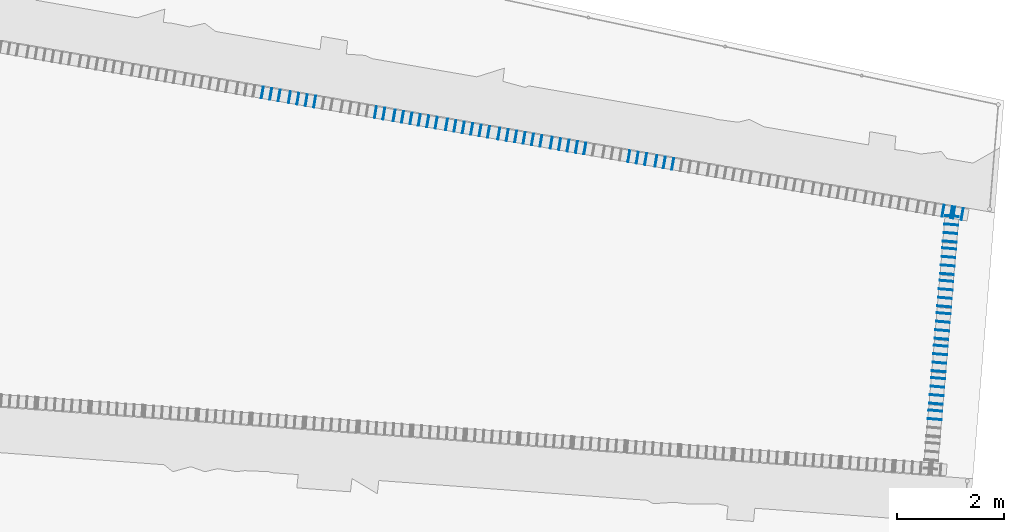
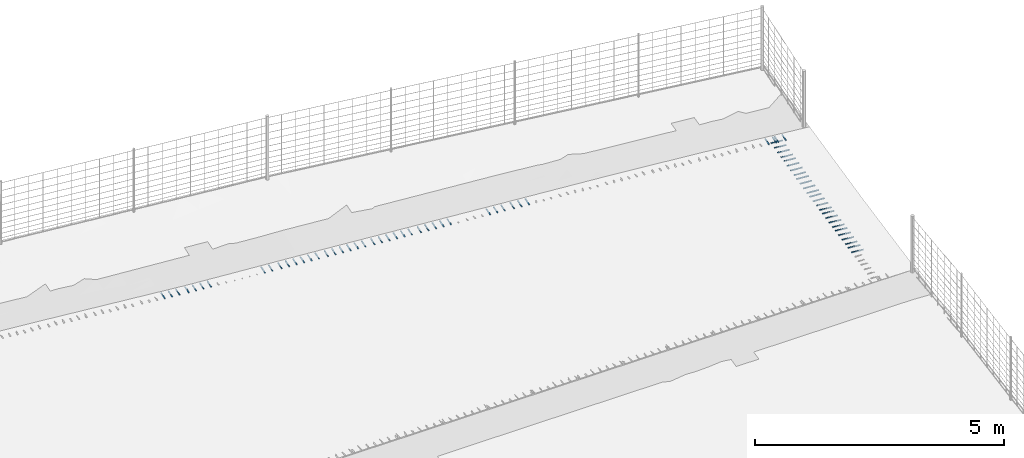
# Not in any storey, part 21 of 72: 68 members.
"""IFC4 model written with IfcOpenShell, lengths in metres."""

import ifcopenshell
import ifcopenshell.guid

model = None  # the IFC model being written
_history = None  # IfcOwnerHistory: only IFC2X3 demands one
_inside = {}  # id of a spatial element -> (the spatial element, [elements in it])
_under = {}  # id of a project, library or spatial element -> (it, [spatial elements below it])
_declared = {}  # id of a project -> (the project, [libraries it declares])
_typed = {}  # id of a type object -> (the type object, [elements of that type])
_made_of = {}  # id of a material, layer set ... -> (it, [elements and type objects made of it])


def new_model(schema):
    """Start an empty IFC model of exactly this schema.

    Asked for "IFC4X3", IfcOpenShell would pick the latest addendum, in which some entities
    have other attributes; the version numbers below select the first issue.
    IFC2X3 requires an IfcOwnerHistory on every rooted entity: one is made here for all.
    """
    global model, _history
    if schema == "IFC4X3":
        model = ifcopenshell.file(schema_version=(4, 3, 0, 0))
    else:
        model = ifcopenshell.file(schema=schema)
    _inside.clear()
    _under.clear()
    _declared.clear()
    _typed.clear()
    _made_of.clear()
    _history = None
    if model.schema == "IFC2X3":
        org = make("IfcOrganization", Name="unknown")
        user = make(
            "IfcPersonAndOrganization",
            ThePerson=make("IfcPerson", FamilyName="unknown"),
            TheOrganization=org,
        )
        app = make(
            "IfcApplication",
            ApplicationDeveloper=org,
            Version="unknown",
            ApplicationFullName="unknown",
            ApplicationIdentifier="unknown",
        )
        _history = make(
            "IfcOwnerHistory",
            OwningUser=user,
            OwningApplication=app,
            ChangeAction="ADDED",
            CreationDate=0,
        )
    return model


def make(cls, **values):
    """One entity of the class cls with the attributes given. An attribute that is None is left unset."""
    return model.create_entity(
        cls, **{name: value for name, value in values.items() if value is not None}
    )


def rooted(cls, **values):
    """An entity with a GlobalId (a new one), such as an element, a storey or a relation."""
    return make(cls, GlobalId=ifcopenshell.guid.new(), OwnerHistory=_history, **values)


def si_unit(unit_type, name, prefix=None):
    """IfcSIUnit, for example si_unit("LENGTHUNIT", "METRE", prefix="MILLI")."""
    return make("IfcSIUnit", UnitType=unit_type, Prefix=prefix, Name=name)


def assignment(units):
    """IfcUnitAssignment: the units of a project."""
    return None if units is None else make("IfcUnitAssignment", Units=units)


def point(xyz):
    """IfcCartesianPoint."""
    return None if xyz is None else make("IfcCartesianPoint", Coordinates=xyz)


def direction(xyz):
    """IfcDirection."""
    return None if xyz is None else make("IfcDirection", DirectionRatios=xyz)


def frame(location, z_axis=None, x_axis=None):
    """IfcAxis2Placement3D, a coordinate frame: its origin and axes. An axis left out is left unset."""
    return make(
        "IfcAxis2Placement3D",
        Location=point(location),
        Axis=direction(z_axis),
        RefDirection=direction(x_axis),
    )


def origin_with_axes():
    """The frame at (0, 0, 0) with the z axis (0, 0, 1) and the x axis (1, 0, 0) written out."""
    return frame((0.0, 0.0, 0.0), z_axis=(0.0, 0.0, 1.0), x_axis=(1.0, 0.0, 0.0))


def place(relative_to, where):
    """IfcLocalPlacement: puts the frame where relative to a parent placement (None: the world)."""
    return make(
        "IfcLocalPlacement", PlacementRelTo=relative_to, RelativePlacement=where
    )


def context(
    kind, dimensions, precision=None, world=None, true_north=None, identifier=None
):
    """IfcGeometricRepresentationContext, for example the 3D "Model" context."""
    return make(
        "IfcGeometricRepresentationContext",
        ContextIdentifier=identifier,
        ContextType=kind,
        CoordinateSpaceDimension=dimensions,
        Precision=precision,
        WorldCoordinateSystem=world,
        TrueNorth=true_north,
    )


def subcontext(parent, identifier, kind, view, scale=None):
    """IfcGeometricRepresentationSubContext, for example "Body" below "Model"."""
    return make(
        "IfcGeometricRepresentationSubContext",
        ContextIdentifier=identifier,
        ContextType=kind,
        ParentContext=parent,
        TargetScale=scale,
        TargetView=view,
    )


def project(units=None, contexts=None):
    """IfcProject with its units and contexts."""
    return rooted(
        "IfcProject",
        Name="project",
        RepresentationContexts=contexts,
        UnitsInContext=assignment(units),
    )


def spatial(cls, under=None, at=None, **own):
    """A site, building, storey or space (cls), placed at a placement, below another one or the project."""
    s = rooted(cls, ObjectPlacement=at, **own)
    if under is not None:
        _under.setdefault(under.id(), (under, []))[1].append(s)
    return s


def profile(cls, at=None, kind="AREA", **sizes):
    """A parametric profile (cls). Its sizes go by their IFC names, for example OverallWidth=200.0."""
    return make(cls, ProfileType=kind, Position=at, **sizes)


def rectangle(**sizes):
    """IfcRectangleProfileDef."""
    return profile("IfcRectangleProfileDef", **sizes)


def extrude(swept, where, along, depth):
    """IfcExtrudedAreaSolid: the profile swept, set in the frame where, extruded along a direction by depth."""
    return make(
        "IfcExtrudedAreaSolid",
        SweptArea=swept,
        Position=where,
        ExtrudedDirection=direction(along),
        Depth=depth,
    )


def shape(context_of_items, identifier, shape_type, items):
    """IfcShapeRepresentation: the items that make up one representation, for example the "Body"."""
    return make(
        "IfcShapeRepresentation",
        ContextOfItems=context_of_items,
        RepresentationIdentifier=identifier,
        RepresentationType=shape_type,
        Items=items,
    )


def material(Name=None, Category=None):
    """IfcMaterial."""
    return make("IfcMaterial", Name=Name, Category=Category)


def material_profile(
    of_material, cross_section, Name=None, Category=None, Priority=None
):
    """IfcMaterialProfile: a cross section and its material."""
    return make(
        "IfcMaterialProfile",
        Name=Name,
        Material=of_material,
        Profile=cross_section,
        Priority=Priority,
        Category=Category,
    )


def profile_set(profiles, Name=None, composite=None):
    """IfcMaterialProfileSet."""
    return make(
        "IfcMaterialProfileSet",
        Name=Name,
        MaterialProfiles=profiles,
        CompositeProfile=composite,
    )


def profile_usage(for_profile_set, cardinal=None, extent=None):
    """IfcMaterialProfileSetUsage: how a profile set lies along its element."""
    return make(
        "IfcMaterialProfileSetUsage",
        ForProfileSet=for_profile_set,
        CardinalPoint=cardinal,
        ReferenceExtent=extent,
    )


def made_of(thing, what):
    """Note that an element or type object is made of a material, layer set ...; save() writes the relation."""
    if what is not None:
        _made_of.setdefault(what.id(), (what, []))[1].append(thing)
    return thing


def type_object(cls, material=None, **own):
    """A type object (cls), such as IfcWallType, which elements share."""
    return made_of(rooted(cls, **own), material)


def element(
    cls,
    number,
    at=None,
    inside=None,
    cuts=None,
    type_object=None,
    material=None,
    context=None,
    identifier="Body",
    shape_type=None,
    held_by="IfcProductDefinitionShape",
    body=None,
    shapes=None,
    **own,
):
    """One element of the class cls, such as IfcWall. Its Tag is "e" and its number.

    at: its placement. inside: the storey or other place that contains it. cuts: it is an
    opening in that element (IfcRelVoidsElement). A single representation is given by context,
    identifier, shape_type and body (its items); several are given by shapes. held_by: the class
    of the entity that holds the representations. save() writes the other relations.
    """
    e = rooted(cls, Tag="e%d" % number, ObjectPlacement=at, **own)
    if body is not None:
        shapes = [shape(context, identifier, shape_type, body)]
    if shapes is not None:
        e.Representation = make(held_by, Representations=shapes)
    if inside is not None:
        _inside.setdefault(inside.id(), (inside, []))[1].append(e)
    if cuts is not None:
        rooted(
            "IfcRelVoidsElement", RelatingBuildingElement=cuts, RelatedOpeningElement=e
        )
    if type_object is not None:
        _typed.setdefault(type_object.id(), (type_object, []))[1].append(e)
    return made_of(e, material)


def aggregate(whole, parts):
    """IfcRelAggregates: a whole, such as a stair, and the parts it consists of."""
    return rooted("IfcRelAggregates", RelatingObject=whole, RelatedObjects=parts)


def save(model, path):
    """Write the relations noted so far, then the file.

    IfcRelAggregates (storeys below a building ...), IfcRelContainedInSpatialStructure (elements
    in a storey), IfcRelDefinesByType, IfcRelAssociatesMaterial and IfcRelDeclares: one each for
    every whole, place, type object, material and project.
    """
    for whole, parts in _under.values():
        aggregate(whole, parts)
    for where, things in _inside.values():
        rooted(
            "IfcRelContainedInSpatialStructure",
            RelatedElements=things,
            RelatingStructure=where,
        )
    for kind, things in _typed.values():
        rooted("IfcRelDefinesByType", RelatedObjects=things, RelatingType=kind)
    for what, things in _made_of.values():
        rooted("IfcRelAssociatesMaterial", RelatedObjects=things, RelatingMaterial=what)
    for by, libraries in _declared.values():
        rooted("IfcRelDeclares", RelatingContext=by, RelatedDefinitions=libraries)
    model.write(path)


model = new_model("IFC4")

# Units and contexts
model_context = context("Model", 3, precision=1e-05, world=origin_with_axes(), true_north=direction((0.0, 1.0)))
body_context = subcontext(model_context, "Body", "Model", "MODEL_VIEW")
ifc_project = project(units=[si_unit("AREAUNIT", "SQUARE_METRE"), si_unit("VOLUMEUNIT", "CUBIC_METRE"), si_unit("LENGTHUNIT", "METRE")], contexts=[model_context])

# Site
site_placement = place(None, origin_with_axes())
site = spatial("IfcSite", under=ifc_project, at=site_placement, Name="Lares · Rua das Mercês · artigo 4771")

# Members
ifc_material = material(Name="Aço galvanizado / Stahl verzinkt", Category="steel")
ifc_material_profile = material_profile(ifc_material, rectangle(XDim=0.018, YDim=0.018))
ifc_profile_set = profile_set([ifc_material_profile], Name="R0.018")
ifc_profile_usage_1 = profile_usage(ifc_profile_set)
member_type = type_object("IfcMemberType", Name="R0.018 / galvanized", PredefinedType="NOTDEFINED", material=ifc_profile_set)
member_1_placement = place(site_placement, frame((69.9526752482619, 7.63503652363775, 15.7576259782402), z_axis=(0.171139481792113, 0.985246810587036, 0.0), x_axis=(0.985246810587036, -0.171139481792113, 0.0)))
element("IfcMember", 1, at=member_1_placement, inside=site, type_object=member_type, material=ifc_profile_usage_1, Name="Acesso · dreno lateral raso · grelha", context=body_context, shape_type="SweptSolid", body=[
    extrude(rectangle(XDim=0.018, YDim=0.018), origin_with_axes(), (0.0, 0.0, 1.0), 0.220000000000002),
])
ifc_profile_usage_2 = profile_usage(ifc_profile_set)
member_2_placement = place(site_placement, frame((70.1103147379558, 7.60765420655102, 15.7638263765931), z_axis=(0.171139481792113, 0.985246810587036, 0.0), x_axis=(0.985246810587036, -0.171139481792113, 0.0)))
element("IfcMember", 2, at=member_2_placement, inside=site, type_object=member_type, material=ifc_profile_usage_2, Name="Acesso · dreno lateral raso · grelha", context=body_context, shape_type="SweptSolid", body=[
    extrude(rectangle(XDim=0.018, YDim=0.018), origin_with_axes(), (0.0, 0.0, 1.0), 0.220000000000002),
])
ifc_profile_usage_3 = profile_usage(ifc_profile_set)
member_3_placement = place(site_placement, frame((70.2679542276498, 7.5802718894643, 15.770026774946), z_axis=(0.171139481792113, 0.985246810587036, 0.0), x_axis=(0.985246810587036, -0.171139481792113, 0.0)))
element("IfcMember", 3, at=member_3_placement, inside=site, type_object=member_type, material=ifc_profile_usage_3, Name="Acesso · dreno lateral raso · grelha", context=body_context, shape_type="SweptSolid", body=[
    extrude(rectangle(XDim=0.018, YDim=0.018), origin_with_axes(), (0.0, 0.0, 1.0), 0.220000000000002),
])
ifc_profile_usage_4 = profile_usage(ifc_profile_set)
member_4_placement = place(site_placement, frame((70.4607309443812, 7.54678618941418, 15.7780083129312), z_axis=(0.171138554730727, 0.985246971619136, 0.0), x_axis=(0.985246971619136, -0.171138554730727, 0.0)))
element("IfcMember", 4, at=member_4_placement, inside=site, type_object=member_type, material=ifc_profile_usage_4, Name="Acesso · dreno lateral raso · grelha", context=body_context, shape_type="SweptSolid", body=[
    extrude(rectangle(XDim=0.018, YDim=0.018), origin_with_axes(), (0.0, 0.0, 1.0), 0.220000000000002),
])
ifc_profile_usage_5 = profile_usage(ifc_profile_set)
member_5_placement = place(site_placement, frame((70.6183704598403, 7.51940402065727, 15.7863372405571), z_axis=(0.171138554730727, 0.985246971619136, 0.0), x_axis=(0.985246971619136, -0.171138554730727, 0.0)))
element("IfcMember", 5, at=member_5_placement, inside=site, type_object=member_type, material=ifc_profile_usage_5, Name="Acesso · dreno lateral raso · grelha", context=body_context, shape_type="SweptSolid", body=[
    extrude(rectangle(XDim=0.018, YDim=0.018), origin_with_axes(), (0.0, 0.0, 1.0), 0.220000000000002),
])
ifc_profile_usage_6 = profile_usage(ifc_profile_set)
member_6_placement = place(site_placement, frame((70.7760099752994, 7.49202185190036, 15.7946661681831), z_axis=(0.171138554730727, 0.985246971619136, 0.0), x_axis=(0.985246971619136, -0.171138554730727, 0.0)))
element("IfcMember", 6, at=member_6_placement, inside=site, type_object=member_type, material=ifc_profile_usage_6, Name="Acesso · dreno lateral raso · grelha", context=body_context, shape_type="SweptSolid", body=[
    extrude(rectangle(XDim=0.018, YDim=0.018), origin_with_axes(), (0.0, 0.0, 1.0), 0.220000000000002),
])
ifc_profile_usage_7 = profile_usage(ifc_profile_set)
member_7_placement = place(site_placement, frame((70.9336494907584, 7.46463968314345, 15.802995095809), z_axis=(0.171138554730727, 0.985246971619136, 0.0), x_axis=(0.985246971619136, -0.171138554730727, 0.0)))
element("IfcMember", 7, at=member_7_placement, inside=site, type_object=member_type, material=ifc_profile_usage_7, Name="Acesso · dreno lateral raso · grelha", context=body_context, shape_type="SweptSolid", body=[
    extrude(rectangle(XDim=0.018, YDim=0.018), origin_with_axes(), (0.0, 0.0, 1.0), 0.220000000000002),
])
ifc_profile_usage_8 = profile_usage(ifc_profile_set)
member_8_placement = place(site_placement, frame((72.0722711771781, 7.26686044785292, 15.87007278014), z_axis=(0.171137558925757, 0.985247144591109, 0.0), x_axis=(0.985247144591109, -0.171137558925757, 0.0)))
element("IfcMember", 8, at=member_8_placement, inside=site, type_object=member_type, material=ifc_profile_usage_8, Name="Acesso · dreno lateral raso · grelha", context=body_context, shape_type="SweptSolid", body=[
    extrude(rectangle(XDim=0.018, YDim=0.018), origin_with_axes(), (0.0, 0.0, 1.0), 0.219999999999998),
])
ifc_profile_usage_9 = profile_usage(ifc_profile_set)
member_9_placement = place(site_placement, frame((72.2299107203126, 7.2394784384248, 15.8800538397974), z_axis=(0.171137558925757, 0.985247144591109, 0.0), x_axis=(0.985247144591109, -0.171137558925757, 0.0)))
element("IfcMember", 9, at=member_9_placement, inside=site, type_object=member_type, material=ifc_profile_usage_9, Name="Acesso · dreno lateral raso · grelha", context=body_context, shape_type="SweptSolid", body=[
    extrude(rectangle(XDim=0.018, YDim=0.018), origin_with_axes(), (0.0, 0.0, 1.0), 0.219999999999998),
])
ifc_profile_usage_10 = profile_usage(ifc_profile_set)
member_10_placement = place(site_placement, frame((72.4227033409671, 7.20599036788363, 15.892088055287), z_axis=(0.171136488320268, 0.985247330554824, 0.0), x_axis=(0.985247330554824, -0.171136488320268, 0.0)))
element("IfcMember", 10, at=member_10_placement, inside=site, type_object=member_type, material=ifc_profile_usage_10, Name="Acesso · dreno lateral raso · grelha", context=body_context, shape_type="SweptSolid", body=[
    extrude(rectangle(XDim=0.018, YDim=0.018), origin_with_axes(), (0.0, 0.0, 1.0), 0.22),
])
ifc_profile_usage_11 = profile_usage(ifc_profile_set)
member_11_placement = place(site_placement, frame((72.5803429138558, 7.17860852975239, 15.9011486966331), z_axis=(0.171136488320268, 0.985247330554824, 0.0), x_axis=(0.985247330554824, -0.171136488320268, 0.0)))
element("IfcMember", 11, at=member_11_placement, inside=site, type_object=member_type, material=ifc_profile_usage_11, Name="Acesso · dreno lateral raso · grelha", context=body_context, shape_type="SweptSolid", body=[
    extrude(rectangle(XDim=0.018, YDim=0.018), origin_with_axes(), (0.0, 0.0, 1.0), 0.22),
])
ifc_profile_usage_12 = profile_usage(ifc_profile_set)
member_12_placement = place(site_placement, frame((72.7379824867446, 7.15122669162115, 15.9102093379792), z_axis=(0.171136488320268, 0.985247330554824, 0.0), x_axis=(0.985247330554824, -0.171136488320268, 0.0)))
element("IfcMember", 12, at=member_12_placement, inside=site, type_object=member_type, material=ifc_profile_usage_12, Name="Acesso · dreno lateral raso · grelha", context=body_context, shape_type="SweptSolid", body=[
    extrude(rectangle(XDim=0.018, YDim=0.018), origin_with_axes(), (0.0, 0.0, 1.0), 0.22),
])
ifc_profile_usage_13 = profile_usage(ifc_profile_set)
member_13_placement = place(site_placement, frame((72.8956220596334, 7.1238448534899, 15.9192699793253), z_axis=(0.171136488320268, 0.985247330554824, 0.0), x_axis=(0.985247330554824, -0.171136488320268, 0.0)))
element("IfcMember", 13, at=member_13_placement, inside=site, type_object=member_type, material=ifc_profile_usage_13, Name="Acesso · dreno lateral raso · grelha", context=body_context, shape_type="SweptSolid", body=[
    extrude(rectangle(XDim=0.018, YDim=0.018), origin_with_axes(), (0.0, 0.0, 1.0), 0.22),
])
ifc_profile_usage_14 = profile_usage(ifc_profile_set)
member_14_placement = place(site_placement, frame((73.0532616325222, 7.09646301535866, 15.9283306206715), z_axis=(0.171136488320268, 0.985247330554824, 0.0), x_axis=(0.985247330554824, -0.171136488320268, 0.0)))
element("IfcMember", 14, at=member_14_placement, inside=site, type_object=member_type, material=ifc_profile_usage_14, Name="Acesso · dreno lateral raso · grelha", context=body_context, shape_type="SweptSolid", body=[
    extrude(rectangle(XDim=0.018, YDim=0.018), origin_with_axes(), (0.0, 0.0, 1.0), 0.22),
])
ifc_profile_usage_15 = profile_usage(ifc_profile_set)
member_15_placement = place(site_placement, frame((73.2109012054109, 7.06908117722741, 15.9373912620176), z_axis=(0.171136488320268, 0.985247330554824, 0.0), x_axis=(0.985247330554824, -0.171136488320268, 0.0)))
element("IfcMember", 15, at=member_15_placement, inside=site, type_object=member_type, material=ifc_profile_usage_15, Name="Acesso · dreno lateral raso · grelha", context=body_context, shape_type="SweptSolid", body=[
    extrude(rectangle(XDim=0.018, YDim=0.018), origin_with_axes(), (0.0, 0.0, 1.0), 0.22),
])
ifc_profile_usage_16 = profile_usage(ifc_profile_set)
member_16_placement = place(site_placement, frame((73.403702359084, 7.03559184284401, 15.9484075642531), z_axis=(0.171135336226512, 0.985247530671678, 0.0), x_axis=(0.985247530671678, -0.171135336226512, 0.0)))
element("IfcMember", 16, at=member_16_placement, inside=site, type_object=member_type, material=ifc_profile_usage_16, Name="Acesso · dreno lateral raso · grelha", context=body_context, shape_type="SweptSolid", body=[
    extrude(rectangle(XDim=0.018, YDim=0.018), origin_with_axes(), (0.0, 0.0, 1.0), 0.219999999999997),
])
ifc_profile_usage_17 = profile_usage(ifc_profile_set)
member_17_placement = place(site_placement, frame((73.5613419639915, 7.00821018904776, 15.9571198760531), z_axis=(0.171135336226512, 0.985247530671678, 0.0), x_axis=(0.985247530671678, -0.171135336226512, 0.0)))
element("IfcMember", 17, at=member_17_placement, inside=site, type_object=member_type, material=ifc_profile_usage_17, Name="Acesso · dreno lateral raso · grelha", context=body_context, shape_type="SweptSolid", body=[
    extrude(rectangle(XDim=0.018, YDim=0.018), origin_with_axes(), (0.0, 0.0, 1.0), 0.219999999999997),
])
ifc_profile_usage_18 = profile_usage(ifc_profile_set)
member_18_placement = place(site_placement, frame((73.718981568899, 6.98082853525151, 15.965832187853), z_axis=(0.171135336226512, 0.985247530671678, 0.0), x_axis=(0.985247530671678, -0.171135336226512, 0.0)))
element("IfcMember", 18, at=member_18_placement, inside=site, type_object=member_type, material=ifc_profile_usage_18, Name="Acesso · dreno lateral raso · grelha", context=body_context, shape_type="SweptSolid", body=[
    extrude(rectangle(XDim=0.018, YDim=0.018), origin_with_axes(), (0.0, 0.0, 1.0), 0.219999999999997),
])
ifc_profile_usage_19 = profile_usage(ifc_profile_set)
member_19_placement = place(site_placement, frame((73.8766211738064, 6.95344688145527, 15.9745444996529), z_axis=(0.171135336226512, 0.985247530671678, 0.0), x_axis=(0.985247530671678, -0.171135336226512, 0.0)))
element("IfcMember", 19, at=member_19_placement, inside=site, type_object=member_type, material=ifc_profile_usage_19, Name="Acesso · dreno lateral raso · grelha", context=body_context, shape_type="SweptSolid", body=[
    extrude(rectangle(XDim=0.018, YDim=0.018), origin_with_axes(), (0.0, 0.0, 1.0), 0.219999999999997),
])
ifc_profile_usage_20 = profile_usage(ifc_profile_set)
member_20_placement = place(site_placement, frame((74.0342607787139, 6.92606522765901, 15.9832568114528), z_axis=(0.171135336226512, 0.985247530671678, 0.0), x_axis=(0.985247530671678, -0.171135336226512, 0.0)))
element("IfcMember", 20, at=member_20_placement, inside=site, type_object=member_type, material=ifc_profile_usage_20, Name="Acesso · dreno lateral raso · grelha", context=body_context, shape_type="SweptSolid", body=[
    extrude(rectangle(XDim=0.018, YDim=0.018), origin_with_axes(), (0.0, 0.0, 1.0), 0.219999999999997),
])
ifc_profile_usage_21 = profile_usage(ifc_profile_set)
member_21_placement = place(site_placement, frame((74.1919003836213, 6.89868357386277, 15.9919691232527), z_axis=(0.171135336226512, 0.985247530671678, 0.0), x_axis=(0.985247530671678, -0.171135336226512, 0.0)))
element("IfcMember", 21, at=member_21_placement, inside=site, type_object=member_type, material=ifc_profile_usage_21, Name="Acesso · dreno lateral raso · grelha", context=body_context, shape_type="SweptSolid", body=[
    extrude(rectangle(XDim=0.018, YDim=0.018), origin_with_axes(), (0.0, 0.0, 1.0), 0.219999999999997),
])
ifc_profile_usage_22 = profile_usage(ifc_profile_set)
member_22_placement = place(site_placement, frame((74.3847104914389, 6.86519291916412, 16.002625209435), z_axis=(0.171134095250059, 0.985247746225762, 0.0), x_axis=(0.985247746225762, -0.171134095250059, 0.0)))
element("IfcMember", 22, at=member_22_placement, inside=site, type_object=member_type, material=ifc_profile_usage_22, Name="Acesso · dreno lateral raso · grelha", context=body_context, shape_type="SweptSolid", body=[
    extrude(rectangle(XDim=0.018, YDim=0.018), origin_with_axes(), (0.0, 0.0, 1.0), 0.219999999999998),
])
ifc_profile_usage_23 = profile_usage(ifc_profile_set)
member_23_placement = place(site_placement, frame((74.542350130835, 6.83781146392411, 16.011337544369), z_axis=(0.171134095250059, 0.985247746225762, 0.0), x_axis=(0.985247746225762, -0.171134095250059, 0.0)))
element("IfcMember", 23, at=member_23_placement, inside=site, type_object=member_type, material=ifc_profile_usage_23, Name="Acesso · dreno lateral raso · grelha", context=body_context, shape_type="SweptSolid", body=[
    extrude(rectangle(XDim=0.018, YDim=0.018), origin_with_axes(), (0.0, 0.0, 1.0), 0.219999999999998),
])
ifc_profile_usage_24 = profile_usage(ifc_profile_set)
member_24_placement = place(site_placement, frame((74.6999897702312, 6.81043000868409, 16.020049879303), z_axis=(0.171134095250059, 0.985247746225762, 0.0), x_axis=(0.985247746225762, -0.171134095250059, 0.0)))
element("IfcMember", 24, at=member_24_placement, inside=site, type_object=member_type, material=ifc_profile_usage_24, Name="Acesso · dreno lateral raso · grelha", context=body_context, shape_type="SweptSolid", body=[
    extrude(rectangle(XDim=0.018, YDim=0.018), origin_with_axes(), (0.0, 0.0, 1.0), 0.219999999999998),
])
ifc_profile_usage_25 = profile_usage(ifc_profile_set)
member_25_placement = place(site_placement, frame((74.8576294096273, 6.78304855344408, 16.028762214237), z_axis=(0.171134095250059, 0.985247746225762, 0.0), x_axis=(0.985247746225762, -0.171134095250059, 0.0)))
element("IfcMember", 25, at=member_25_placement, inside=site, type_object=member_type, material=ifc_profile_usage_25, Name="Acesso · dreno lateral raso · grelha", context=body_context, shape_type="SweptSolid", body=[
    extrude(rectangle(XDim=0.018, YDim=0.018), origin_with_axes(), (0.0, 0.0, 1.0), 0.219999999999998),
])
ifc_profile_usage_26 = profile_usage(ifc_profile_set)
member_26_placement = place(site_placement, frame((75.0152690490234, 6.75566709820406, 16.037474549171), z_axis=(0.171134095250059, 0.985247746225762, 0.0), x_axis=(0.985247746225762, -0.171134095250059, 0.0)))
element("IfcMember", 26, at=member_26_placement, inside=site, type_object=member_type, material=ifc_profile_usage_26, Name="Acesso · dreno lateral raso · grelha", context=body_context, shape_type="SweptSolid", body=[
    extrude(rectangle(XDim=0.018, YDim=0.018), origin_with_axes(), (0.0, 0.0, 1.0), 0.219999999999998),
])
ifc_profile_usage_27 = profile_usage(ifc_profile_set)
member_27_placement = place(site_placement, frame((75.1729086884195, 6.72828564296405, 16.0461868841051), z_axis=(0.171134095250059, 0.985247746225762, 0.0), x_axis=(0.985247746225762, -0.171134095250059, 0.0)))
element("IfcMember", 27, at=member_27_placement, inside=site, type_object=member_type, material=ifc_profile_usage_27, Name="Acesso · dreno lateral raso · grelha", context=body_context, shape_type="SweptSolid", body=[
    extrude(rectangle(XDim=0.018, YDim=0.018), origin_with_axes(), (0.0, 0.0, 1.0), 0.219999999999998),
])
ifc_profile_usage_28 = profile_usage(ifc_profile_set)
member_28_placement = place(site_placement, frame((75.3657281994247, 6.69479360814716, 16.0568435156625), z_axis=(0.171132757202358, 0.985247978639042, 0.0), x_axis=(0.985247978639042, -0.171132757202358, 0.0)))
element("IfcMember", 28, at=member_28_placement, inside=site, type_object=member_type, material=ifc_profile_usage_28, Name="Acesso · dreno lateral raso · grelha", context=body_context, shape_type="SweptSolid", body=[
    extrude(rectangle(XDim=0.018, YDim=0.018), origin_with_axes(), (0.0, 0.0, 1.0), 0.219999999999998),
])
ifc_profile_usage_29 = profile_usage(ifc_profile_set)
member_29_placement = place(site_placement, frame((75.5233678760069, 6.66741236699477, 16.0655558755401), z_axis=(0.171132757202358, 0.985247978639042, 0.0), x_axis=(0.985247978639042, -0.171132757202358, 0.0)))
element("IfcMember", 29, at=member_29_placement, inside=site, type_object=member_type, material=ifc_profile_usage_29, Name="Acesso · dreno lateral raso · grelha", context=body_context, shape_type="SweptSolid", body=[
    extrude(rectangle(XDim=0.018, YDim=0.018), origin_with_axes(), (0.0, 0.0, 1.0), 0.219999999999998),
])
ifc_profile_usage_30 = profile_usage(ifc_profile_set)
member_30_placement = place(site_placement, frame((75.6810075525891, 6.64003112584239, 16.0742682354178), z_axis=(0.171132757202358, 0.985247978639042, 0.0), x_axis=(0.985247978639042, -0.171132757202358, 0.0)))
element("IfcMember", 30, at=member_30_placement, inside=site, type_object=member_type, material=ifc_profile_usage_30, Name="Acesso · dreno lateral raso · grelha", context=body_context, shape_type="SweptSolid", body=[
    extrude(rectangle(XDim=0.018, YDim=0.018), origin_with_axes(), (0.0, 0.0, 1.0), 0.219999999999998),
])
ifc_profile_usage_31 = profile_usage(ifc_profile_set)
member_31_placement = place(site_placement, frame((75.8386472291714, 6.61264988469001, 16.0829805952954), z_axis=(0.171132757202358, 0.985247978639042, 0.0), x_axis=(0.985247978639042, -0.171132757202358, 0.0)))
element("IfcMember", 31, at=member_31_placement, inside=site, type_object=member_type, material=ifc_profile_usage_31, Name="Acesso · dreno lateral raso · grelha", context=body_context, shape_type="SweptSolid", body=[
    extrude(rectangle(XDim=0.018, YDim=0.018), origin_with_axes(), (0.0, 0.0, 1.0), 0.219999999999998),
])
ifc_profile_usage_32 = profile_usage(ifc_profile_set)
member_32_placement = place(site_placement, frame((75.9962869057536, 6.58526864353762, 16.0916929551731), z_axis=(0.171132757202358, 0.985247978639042, 0.0), x_axis=(0.985247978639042, -0.171132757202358, 0.0)))
element("IfcMember", 32, at=member_32_placement, inside=site, type_object=member_type, material=ifc_profile_usage_32, Name="Acesso · dreno lateral raso · grelha", context=body_context, shape_type="SweptSolid", body=[
    extrude(rectangle(XDim=0.018, YDim=0.018), origin_with_axes(), (0.0, 0.0, 1.0), 0.219999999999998),
])
ifc_profile_usage_33 = profile_usage(ifc_profile_set)
member_33_placement = place(site_placement, frame((76.8196751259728, 6.44225089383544, 16.1371996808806), z_axis=(0.171131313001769, 0.985248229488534, 0.0), x_axis=(0.985248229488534, -0.171131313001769, 0.0)))
element("IfcMember", 33, at=member_33_placement, inside=site, type_object=member_type, material=ifc_profile_usage_33, Name="Acesso · dreno lateral raso · grelha", context=body_context, shape_type="SweptSolid", body=[
    extrude(rectangle(XDim=0.018, YDim=0.018), origin_with_axes(), (0.0, 0.0, 1.0), 0.219999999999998),
])
ifc_profile_usage_34 = profile_usage(ifc_profile_set)
member_34_placement = place(site_placement, frame((76.977314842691, 6.41486988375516, 16.1459120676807), z_axis=(0.171131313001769, 0.985248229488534, 0.0), x_axis=(0.985248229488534, -0.171131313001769, 0.0)))
element("IfcMember", 34, at=member_34_placement, inside=site, type_object=member_type, material=ifc_profile_usage_34, Name="Acesso · dreno lateral raso · grelha", context=body_context, shape_type="SweptSolid", body=[
    extrude(rectangle(XDim=0.018, YDim=0.018), origin_with_axes(), (0.0, 0.0, 1.0), 0.219999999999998),
])
ifc_profile_usage_35 = profile_usage(ifc_profile_set)
member_35_placement = place(site_placement, frame((77.1349545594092, 6.38748887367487, 16.1546244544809), z_axis=(0.171131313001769, 0.985248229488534, 0.0), x_axis=(0.985248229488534, -0.171131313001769, 0.0)))
element("IfcMember", 35, at=member_35_placement, inside=site, type_object=member_type, material=ifc_profile_usage_35, Name="Acesso · dreno lateral raso · grelha", context=body_context, shape_type="SweptSolid", body=[
    extrude(rectangle(XDim=0.018, YDim=0.018), origin_with_axes(), (0.0, 0.0, 1.0), 0.219999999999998),
])
ifc_profile_usage_36 = profile_usage(ifc_profile_set)
member_36_placement = place(site_placement, frame((77.327794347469, 6.35399388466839, 16.1652822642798), z_axis=(0.171129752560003, 0.985248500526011, 0.0), x_axis=(0.985248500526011, -0.171129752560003, 0.0)))
element("IfcMember", 36, at=member_36_placement, inside=site, type_object=member_type, material=ifc_profile_usage_36, Name="Acesso · dreno lateral raso · grelha", context=body_context, shape_type="SweptSolid", body=[
    extrude(rectangle(XDim=0.018, YDim=0.018), origin_with_axes(), (0.0, 0.0, 1.0), 0.220000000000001),
])
ifc_profile_usage_37 = profile_usage(ifc_profile_set)
member_37_placement = place(site_placement, frame((77.4854341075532, 6.32661312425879, 16.1739946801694), z_axis=(0.171129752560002, 0.985248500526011, 0.0), x_axis=(0.985248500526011, -0.171129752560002, 0.0)))
element("IfcMember", 37, at=member_37_placement, inside=site, type_object=member_type, material=ifc_profile_usage_37, Name="Acesso · dreno lateral raso · grelha", context=body_context, shape_type="SweptSolid", body=[
    extrude(rectangle(XDim=0.018, YDim=0.018), origin_with_axes(), (0.0, 0.0, 1.0), 0.220000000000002),
])
ifc_profile_usage_38 = profile_usage(ifc_profile_set)
member_38_placement = place(site_placement, frame((77.6430738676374, 6.2992323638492, 16.182707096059), z_axis=(0.171129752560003, 0.985248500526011, 0.0), x_axis=(0.985248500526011, -0.171129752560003, 0.0)))
element("IfcMember", 38, at=member_38_placement, inside=site, type_object=member_type, material=ifc_profile_usage_38, Name="Acesso · dreno lateral raso · grelha", context=body_context, shape_type="SweptSolid", body=[
    extrude(rectangle(XDim=0.018, YDim=0.018), origin_with_axes(), (0.0, 0.0, 1.0), 0.220000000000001),
])
ifc_profile_usage_39 = profile_usage(ifc_profile_set)
member_39_placement = place(site_placement, frame((82.7060863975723, 5.41985161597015, 16.4176316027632), z_axis=(0.171120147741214, 0.985250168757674, 0.0), x_axis=(0.985250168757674, -0.171120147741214, 0.0)))
element("IfcMember", 39, at=member_39_placement, inside=site, type_object=member_type, material=ifc_profile_usage_39, Name="Acesso · dreno lateral raso · grelha", context=body_context, shape_type="SweptSolid", body=[
    extrude(rectangle(XDim=0.018, YDim=0.018), origin_with_axes(), (0.0, 0.0, 1.0), 0.219999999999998),
])
ifc_profile_usage_40 = profile_usage(ifc_profile_set)
member_40_placement = place(site_placement, frame((82.8637264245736, 5.39247239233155, 16.4226004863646), z_axis=(0.171120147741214, 0.985250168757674, 0.0), x_axis=(0.985250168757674, -0.171120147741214, 0.0)))
element("IfcMember", 40, at=member_40_placement, inside=site, type_object=member_type, material=ifc_profile_usage_40, Name="Acesso · dreno lateral raso · grelha", context=body_context, shape_type="SweptSolid", body=[
    extrude(rectangle(XDim=0.018, YDim=0.018), origin_with_axes(), (0.0, 0.0, 1.0), 0.219999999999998),
])
ifc_profile_usage_41 = profile_usage(ifc_profile_set)
member_41_placement = place(site_placement, frame((82.907893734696, 5.38480136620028, 16.4239926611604), z_axis=(0.17111893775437, 0.985250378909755, 0.0), x_axis=(0.985250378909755, -0.17111893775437, 0.0)))
element("IfcMember", 41, at=member_41_placement, inside=site, type_object=member_type, material=ifc_profile_usage_41, Name="Acesso · dreno lateral raso · grelha", context=body_context, shape_type="SweptSolid", body=[
    extrude(rectangle(XDim=0.018, YDim=0.018), origin_with_axes(), (0.0, 0.0, 1.0), 0.22),
])
ifc_profile_usage_42 = profile_usage(ifc_profile_set)
member_42_placement = place(site_placement, frame((83.0655337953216, 5.35742233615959, 16.4289615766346), z_axis=(0.17111893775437, 0.985250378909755, 0.0), x_axis=(0.985250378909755, -0.17111893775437, 0.0)))
element("IfcMember", 42, at=member_42_placement, inside=site, type_object=member_type, material=ifc_profile_usage_42, Name="Acesso · dreno lateral raso · grelha", context=body_context, shape_type="SweptSolid", body=[
    extrude(rectangle(XDim=0.018, YDim=0.018), origin_with_axes(), (0.0, 0.0, 1.0), 0.22),
])
ifc_profile_usage_43 = profile_usage(ifc_profile_set)
member_43_placement = place(site_placement, frame((82.6977656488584, 1.61253538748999, 16.1574746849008), z_axis=(-0.996416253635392, 0.0845851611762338, 0.0), x_axis=(0.0845851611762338, 0.996416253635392, 0.0)))
element("IfcMember", 43, at=member_43_placement, inside=site, type_object=member_type, material=ifc_profile_usage_43, Name="Interceção · caleira rua · grelha", context=body_context, shape_type="SweptSolid", body=[
    extrude(rectangle(XDim=0.018, YDim=0.018), origin_with_axes(), (0.0, 0.0, 1.0), 0.260000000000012),
])
ifc_profile_usage_44 = profile_usage(ifc_profile_set)
member_44_placement = place(site_placement, frame((82.7112992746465, 1.77196198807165, 16.1662564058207), z_axis=(-0.996416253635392, 0.0845851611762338, 0.0), x_axis=(0.0845851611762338, 0.996416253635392, 0.0)))
element("IfcMember", 44, at=member_44_placement, inside=site, type_object=member_type, material=ifc_profile_usage_44, Name="Interceção · caleira rua · grelha", context=body_context, shape_type="SweptSolid", body=[
    extrude(rectangle(XDim=0.018, YDim=0.018), origin_with_axes(), (0.0, 0.0, 1.0), 0.260000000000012),
])
ifc_profile_usage_45 = profile_usage(ifc_profile_set)
member_45_placement = place(site_placement, frame((82.7222798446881, 1.90131349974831, 16.1733814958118), z_axis=(-0.996416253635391, 0.0845851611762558, 0.0), x_axis=(0.0845851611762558, 0.996416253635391, 0.0)))
element("IfcMember", 45, at=member_45_placement, inside=site, type_object=member_type, material=ifc_profile_usage_45, Name="Interceção · caleira rua · grelha", context=body_context, shape_type="SweptSolid", body=[
    extrude(rectangle(XDim=0.018, YDim=0.018), origin_with_axes(), (0.0, 0.0, 1.0), 0.260000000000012),
])
ifc_profile_usage_46 = profile_usage(ifc_profile_set)
member_46_placement = place(site_placement, frame((82.7358134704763, 2.06074010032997, 16.1821632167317), z_axis=(-0.996416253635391, 0.0845851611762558, 0.0), x_axis=(0.0845851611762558, 0.996416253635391, 0.0)))
element("IfcMember", 46, at=member_46_placement, inside=site, type_object=member_type, material=ifc_profile_usage_46, Name="Interceção · caleira rua · grelha", context=body_context, shape_type="SweptSolid", body=[
    extrude(rectangle(XDim=0.018, YDim=0.018), origin_with_axes(), (0.0, 0.0, 1.0), 0.260000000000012),
])
ifc_profile_usage_47 = profile_usage(ifc_profile_set)
member_47_placement = place(site_placement, frame((82.7493470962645, 2.22016670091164, 16.1909449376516), z_axis=(-0.996416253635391, 0.0845851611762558, 0.0), x_axis=(0.0845851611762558, 0.996416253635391, 0.0)))
element("IfcMember", 47, at=member_47_placement, inside=site, type_object=member_type, material=ifc_profile_usage_47, Name="Interceção · caleira rua · grelha", context=body_context, shape_type="SweptSolid", body=[
    extrude(rectangle(XDim=0.018, YDim=0.018), origin_with_axes(), (0.0, 0.0, 1.0), 0.260000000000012),
])
ifc_profile_usage_48 = profile_usage(ifc_profile_set)
member_48_placement = place(site_placement, frame((82.7628807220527, 2.3795933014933, 16.1997266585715), z_axis=(-0.996416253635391, 0.0845851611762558, 0.0), x_axis=(0.0845851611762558, 0.996416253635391, 0.0)))
element("IfcMember", 48, at=member_48_placement, inside=site, type_object=member_type, material=ifc_profile_usage_48, Name="Interceção · caleira rua · grelha", context=body_context, shape_type="SweptSolid", body=[
    extrude(rectangle(XDim=0.018, YDim=0.018), origin_with_axes(), (0.0, 0.0, 1.0), 0.260000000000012),
])
ifc_profile_usage_49 = profile_usage(ifc_profile_set)
member_49_placement = place(site_placement, frame((82.7738612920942, 2.50894481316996, 16.2068517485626), z_axis=(-0.996416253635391, 0.0845851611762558, 0.0), x_axis=(0.0845851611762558, 0.996416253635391, 0.0)))
element("IfcMember", 49, at=member_49_placement, inside=site, type_object=member_type, material=ifc_profile_usage_49, Name="Interceção · caleira rua · grelha", context=body_context, shape_type="SweptSolid", body=[
    extrude(rectangle(XDim=0.018, YDim=0.018), origin_with_axes(), (0.0, 0.0, 1.0), 0.260000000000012),
])
ifc_profile_usage_50 = profile_usage(ifc_profile_set)
member_50_placement = place(site_placement, frame((82.7873949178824, 2.66837141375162, 16.2156334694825), z_axis=(-0.996416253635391, 0.0845851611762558, 0.0), x_axis=(0.0845851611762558, 0.996416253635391, 0.0)))
element("IfcMember", 50, at=member_50_placement, inside=site, type_object=member_type, material=ifc_profile_usage_50, Name="Interceção · caleira rua · grelha", context=body_context, shape_type="SweptSolid", body=[
    extrude(rectangle(XDim=0.018, YDim=0.018), origin_with_axes(), (0.0, 0.0, 1.0), 0.260000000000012),
])
ifc_profile_usage_51 = profile_usage(ifc_profile_set)
member_51_placement = place(site_placement, frame((82.8009285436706, 2.82779801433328, 16.2244151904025), z_axis=(-0.996416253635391, 0.0845851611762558, 0.0), x_axis=(0.0845851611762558, 0.996416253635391, 0.0)))
element("IfcMember", 51, at=member_51_placement, inside=site, type_object=member_type, material=ifc_profile_usage_51, Name="Interceção · caleira rua · grelha", context=body_context, shape_type="SweptSolid", body=[
    extrude(rectangle(XDim=0.018, YDim=0.018), origin_with_axes(), (0.0, 0.0, 1.0), 0.260000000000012),
])
ifc_profile_usage_52 = profile_usage(ifc_profile_set)
member_52_placement = place(site_placement, frame((82.8144621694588, 2.98722461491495, 16.2331969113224), z_axis=(-0.996416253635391, 0.0845851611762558, 0.0), x_axis=(0.0845851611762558, 0.996416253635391, 0.0)))
element("IfcMember", 52, at=member_52_placement, inside=site, type_object=member_type, material=ifc_profile_usage_52, Name="Interceção · caleira rua · grelha", context=body_context, shape_type="SweptSolid", body=[
    extrude(rectangle(XDim=0.018, YDim=0.018), origin_with_axes(), (0.0, 0.0, 1.0), 0.260000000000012),
])
ifc_profile_usage_53 = profile_usage(ifc_profile_set)
member_53_placement = place(site_placement, frame((82.8254427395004, 3.1165761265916, 16.2403504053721), z_axis=(-0.996416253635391, 0.0845851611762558, 0.0), x_axis=(0.0845851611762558, 0.996416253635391, 0.0)))
element("IfcMember", 53, at=member_53_placement, inside=site, type_object=member_type, material=ifc_profile_usage_53, Name="Interceção · caleira rua · grelha", context=body_context, shape_type="SweptSolid", body=[
    extrude(rectangle(XDim=0.018, YDim=0.018), origin_with_axes(), (0.0, 0.0, 1.0), 0.260000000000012),
])
ifc_profile_usage_54 = profile_usage(ifc_profile_set)
member_54_placement = place(site_placement, frame((82.8389763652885, 3.27600272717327, 16.2492836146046), z_axis=(-0.996416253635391, 0.0845851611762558, 0.0), x_axis=(0.0845851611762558, 0.996416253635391, 0.0)))
element("IfcMember", 54, at=member_54_placement, inside=site, type_object=member_type, material=ifc_profile_usage_54, Name="Interceção · caleira rua · grelha", context=body_context, shape_type="SweptSolid", body=[
    extrude(rectangle(XDim=0.018, YDim=0.018), origin_with_axes(), (0.0, 0.0, 1.0), 0.260000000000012),
])
ifc_profile_usage_55 = profile_usage(ifc_profile_set)
member_55_placement = place(site_placement, frame((82.8525099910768, 3.43542932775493, 16.2582168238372), z_axis=(-0.996416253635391, 0.0845851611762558, 0.0), x_axis=(0.0845851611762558, 0.996416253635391, 0.0)))
element("IfcMember", 55, at=member_55_placement, inside=site, type_object=member_type, material=ifc_profile_usage_55, Name="Interceção · caleira rua · grelha", context=body_context, shape_type="SweptSolid", body=[
    extrude(rectangle(XDim=0.018, YDim=0.018), origin_with_axes(), (0.0, 0.0, 1.0), 0.260000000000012),
])
ifc_profile_usage_56 = profile_usage(ifc_profile_set)
member_56_placement = place(site_placement, frame((82.866043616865, 3.59485592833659, 16.2671500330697), z_axis=(-0.996416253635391, 0.0845851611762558, 0.0), x_axis=(0.0845851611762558, 0.996416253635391, 0.0)))
element("IfcMember", 56, at=member_56_placement, inside=site, type_object=member_type, material=ifc_profile_usage_56, Name="Interceção · caleira rua · grelha", context=body_context, shape_type="SweptSolid", body=[
    extrude(rectangle(XDim=0.018, YDim=0.018), origin_with_axes(), (0.0, 0.0, 1.0), 0.260000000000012),
])
ifc_profile_usage_57 = profile_usage(ifc_profile_set)
member_57_placement = place(site_placement, frame((82.8770241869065, 3.72420744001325, 16.2752898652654), z_axis=(-0.996416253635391, 0.0845851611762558, 0.0), x_axis=(0.0845851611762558, 0.996416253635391, 0.0)))
element("IfcMember", 57, at=member_57_placement, inside=site, type_object=member_type, material=ifc_profile_usage_57, Name="Interceção · caleira rua · grelha", context=body_context, shape_type="SweptSolid", body=[
    extrude(rectangle(XDim=0.018, YDim=0.018), origin_with_axes(), (0.0, 0.0, 1.0), 0.260000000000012),
])
ifc_profile_usage_58 = profile_usage(ifc_profile_set)
member_58_placement = place(site_placement, frame((82.8905578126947, 3.88363404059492, 16.2889795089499), z_axis=(-0.996416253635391, 0.0845851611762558, 0.0), x_axis=(0.0845851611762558, 0.996416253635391, 0.0)))
element("IfcMember", 58, at=member_58_placement, inside=site, type_object=member_type, material=ifc_profile_usage_58, Name="Interceção · caleira rua · grelha", context=body_context, shape_type="SweptSolid", body=[
    extrude(rectangle(XDim=0.018, YDim=0.018), origin_with_axes(), (0.0, 0.0, 1.0), 0.260000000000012),
])
ifc_profile_usage_59 = profile_usage(ifc_profile_set)
member_59_placement = place(site_placement, frame((82.9040914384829, 4.04306064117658, 16.3026691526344), z_axis=(-0.99641625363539, 0.0845851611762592, 0.0), x_axis=(0.0845851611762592, 0.99641625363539, 0.0)))
element("IfcMember", 59, at=member_59_placement, inside=site, type_object=member_type, material=ifc_profile_usage_59, Name="Interceção · caleira rua · grelha", context=body_context, shape_type="SweptSolid", body=[
    extrude(rectangle(XDim=0.018, YDim=0.018), origin_with_axes(), (0.0, 0.0, 1.0), 0.260000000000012),
])
ifc_profile_usage_60 = profile_usage(ifc_profile_set)
member_60_placement = place(site_placement, frame((82.9176250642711, 4.20248724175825, 16.3163587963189), z_axis=(-0.99641625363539, 0.0845851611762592, 0.0), x_axis=(0.0845851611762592, 0.99641625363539, 0.0)))
element("IfcMember", 60, at=member_60_placement, inside=site, type_object=member_type, material=ifc_profile_usage_60, Name="Interceção · caleira rua · grelha", context=body_context, shape_type="SweptSolid", body=[
    extrude(rectangle(XDim=0.018, YDim=0.018), origin_with_axes(), (0.0, 0.0, 1.0), 0.260000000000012),
])
ifc_profile_usage_61 = profile_usage(ifc_profile_set)
member_61_placement = place(site_placement, frame((82.9286056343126, 4.3318387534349, 16.3273745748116), z_axis=(-0.996416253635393, 0.0845851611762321, 0.0), x_axis=(0.0845851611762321, 0.996416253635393, 0.0)))
element("IfcMember", 61, at=member_61_placement, inside=site, type_object=member_type, material=ifc_profile_usage_61, Name="Interceção · caleira rua · grelha", context=body_context, shape_type="SweptSolid", body=[
    extrude(rectangle(XDim=0.018, YDim=0.018), origin_with_axes(), (0.0, 0.0, 1.0), 0.260000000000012),
])
ifc_profile_usage_62 = profile_usage(ifc_profile_set)
member_62_placement = place(site_placement, frame((82.9421392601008, 4.49126535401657, 16.3405768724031), z_axis=(-0.996416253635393, 0.0845851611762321, 0.0), x_axis=(0.0845851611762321, 0.996416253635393, 0.0)))
element("IfcMember", 62, at=member_62_placement, inside=site, type_object=member_type, material=ifc_profile_usage_62, Name="Interceção · caleira rua · grelha", context=body_context, shape_type="SweptSolid", body=[
    extrude(rectangle(XDim=0.018, YDim=0.018), origin_with_axes(), (0.0, 0.0, 1.0), 0.260000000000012),
])
ifc_profile_usage_63 = profile_usage(ifc_profile_set)
member_63_placement = place(site_placement, frame((82.955672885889, 4.65069195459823, 16.3537791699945), z_axis=(-0.996416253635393, 0.0845851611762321, 0.0), x_axis=(0.0845851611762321, 0.996416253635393, 0.0)))
element("IfcMember", 63, at=member_63_placement, inside=site, type_object=member_type, material=ifc_profile_usage_63, Name="Interceção · caleira rua · grelha", context=body_context, shape_type="SweptSolid", body=[
    extrude(rectangle(XDim=0.018, YDim=0.018), origin_with_axes(), (0.0, 0.0, 1.0), 0.260000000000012),
])
ifc_profile_usage_64 = profile_usage(ifc_profile_set)
member_64_placement = place(site_placement, frame((82.9692065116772, 4.81011855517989, 16.366981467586), z_axis=(-0.996416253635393, 0.0845851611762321, 0.0), x_axis=(0.0845851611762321, 0.996416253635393, 0.0)))
element("IfcMember", 64, at=member_64_placement, inside=site, type_object=member_type, material=ifc_profile_usage_64, Name="Interceção · caleira rua · grelha", context=body_context, shape_type="SweptSolid", body=[
    extrude(rectangle(XDim=0.018, YDim=0.018), origin_with_axes(), (0.0, 0.0, 1.0), 0.260000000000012),
])
ifc_profile_usage_65 = profile_usage(ifc_profile_set)
member_65_placement = place(site_placement, frame((82.9801870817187, 4.93947006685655, 16.3776932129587), z_axis=(-0.99641625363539, 0.0845851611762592, 0.0), x_axis=(0.0845851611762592, 0.99641625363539, 0.0)))
element("IfcMember", 65, at=member_65_placement, inside=site, type_object=member_type, material=ifc_profile_usage_65, Name="Interceção · caleira rua · grelha", context=body_context, shape_type="SweptSolid", body=[
    extrude(rectangle(XDim=0.018, YDim=0.018), origin_with_axes(), (0.0, 0.0, 1.0), 0.260000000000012),
])
ifc_profile_usage_66 = profile_usage(ifc_profile_set)
member_66_placement = place(site_placement, frame((82.9937207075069, 5.09889666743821, 16.3908955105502), z_axis=(-0.99641625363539, 0.0845851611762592, 0.0), x_axis=(0.0845851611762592, 0.99641625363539, 0.0)))
element("IfcMember", 66, at=member_66_placement, inside=site, type_object=member_type, material=ifc_profile_usage_66, Name="Interceção · caleira rua · grelha", context=body_context, shape_type="SweptSolid", body=[
    extrude(rectangle(XDim=0.018, YDim=0.018), origin_with_axes(), (0.0, 0.0, 1.0), 0.260000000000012),
])
ifc_profile_usage_67 = profile_usage(ifc_profile_set)
member_67_placement = place(site_placement, frame((83.0072543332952, 5.25832326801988, 16.4040978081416), z_axis=(-0.99641625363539, 0.0845851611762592, 0.0), x_axis=(0.0845851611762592, 0.99641625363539, 0.0)))
element("IfcMember", 67, at=member_67_placement, inside=site, type_object=member_type, material=ifc_profile_usage_67, Name="Interceção · caleira rua · grelha", context=body_context, shape_type="SweptSolid", body=[
    extrude(rectangle(XDim=0.018, YDim=0.018), origin_with_axes(), (0.0, 0.0, 1.0), 0.260000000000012),
])
ifc_profile_usage_68 = profile_usage(ifc_profile_set)
member_68_placement = place(site_placement, frame((83.0207879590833, 5.41774986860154, 16.4173001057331), z_axis=(-0.99641625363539, 0.0845851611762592, 0.0), x_axis=(0.0845851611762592, 0.99641625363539, 0.0)))
element("IfcMember", 68, at=member_68_placement, inside=site, type_object=member_type, material=ifc_profile_usage_68, Name="Interceção · caleira rua · grelha", context=body_context, shape_type="SweptSolid", body=[
    extrude(rectangle(XDim=0.018, YDim=0.018), origin_with_axes(), (0.0, 0.0, 1.0), 0.260000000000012),
])

save(model, "model.ifc")
